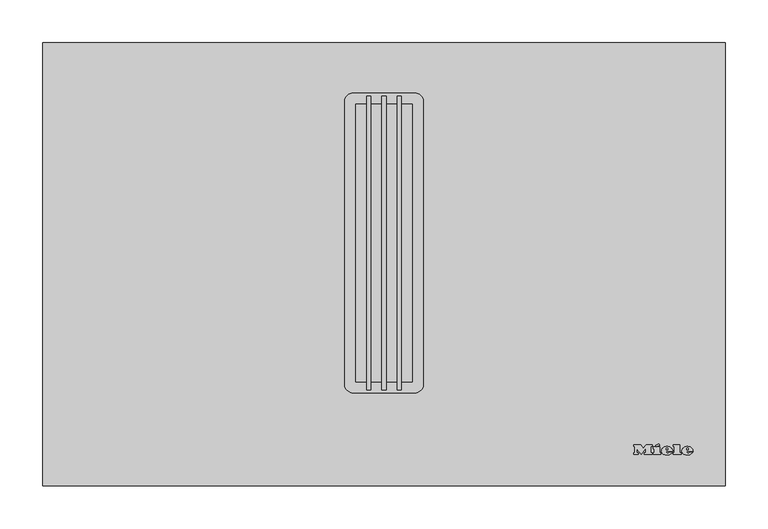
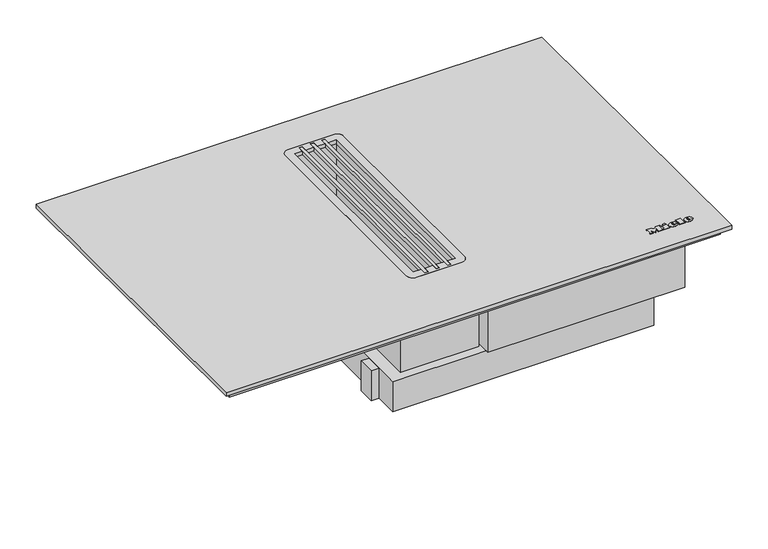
"""IFC4 building model written with IfcOpenShell, lengths in millimetres: proxy geometry, 11390370_D_KMDA7634FL : 26763472_D_11390370_KMDA7634FL."""

from ifc_helpers import new_model, si_unit, point, frame, frame_2d, origin, origin_with_axes, place, context, project, spatial, polyline, circle_curve, ellipse_curve, trimmed, segment, composite_curve, outline, extrude, faceted_brep, source, transform, mapped, element, save
from ifc_brep_helpers import plane_surface, cylinder_surface, revolved_surface, extruded_surface, advanced_brep


def specialty_equipment_c7db01c0(model_context):
    return source(origin(), model_context, "Body", "SolidModel", [
        extrude(outline(polyline([(343.0, 159.0), (343.0, 132.0), (331.0, 132.0), (331.0, 159.0), (343.0, 159.0)])), frame((0.0, 0.0, -194.0), z_axis=(0.0, 0.0, 1.0), x_axis=(1.0, 0.0, 0.0)), (0.0, 0.0, 1.0), 50.0),
        extrude(outline(polyline([(343.0, 299.0), (343.0, 272.0), (331.0, 272.0), (331.0, 299.0), (343.0, 299.0)])), frame((0.0, 0.0, -194.0), z_axis=(0.0, 0.0, 1.0), x_axis=(1.0, 0.0, 0.0)), (0.0, 0.0, 1.0), 50.0),
        extrude(outline(polyline([(-94.0, 132.0), (-94.0, 159.0), (-82.0, 159.0), (-82.0, 132.0), (-94.0, 132.0)])), frame((0.0, 0.0, -194.0), z_axis=(0.0, 0.0, 1.0), x_axis=(1.0, 0.0, 0.0)), (0.0, 0.0, 1.0), 50.0),
        extrude(outline(polyline([(-94.0, 412.0), (-94.0, 439.0), (-82.0, 439.0), (-82.0, 412.0), (-94.0, 412.0)])), frame((0.0, 0.0, -194.0), z_axis=(0.0, 0.0, 1.0), x_axis=(1.0, 0.0, 0.0)), (0.0, 0.0, 1.0), 50.0),
        extrude(outline(composite_curve([segment(trimmed(circle_curve(frame_2d((196.0, 245.0)), 51.0), [point((247.0, 245.0))], [point((145.0, 245.0))], False, "CARTESIAN"), True, "CONTINUOUS"), segment(trimmed(circle_curve(frame_2d((196.0, 245.0)), 51.0), [point((145.0, 245.0))], [point((247.0, 245.0))], False, "CARTESIAN"), True, "CONTINUOUS")], self_intersect=False)), frame((0.0, 0.0, -59.0), z_axis=(0.0, 0.0, 1.0), x_axis=(1.0, 0.0, 0.0)), (0.0, 0.0, 1.0), 13.0),
        extrude(outline(composite_curve([segment(trimmed(circle_curve(frame_2d((-70.0, 342.0)), 20.0), [point((-70.0, 362.0))], [point((-50.0, 342.0))], False, "CARTESIAN"), True, "CONTINUOUS"), segment(polyline([(-50.0, 342.0), (-50.0, 159.0)]), True, "CONTINUOUS"), segment(trimmed(circle_curve(frame_2d((-70.0, 159.0)), 20.0), [point((-50.0, 159.0))], [point((-70.0, 139.0))], False, "CARTESIAN"), True, "CONTINUOUS"), segment(polyline([(-70.0, 139.0), (-126.8, 139.0)]), True, "CONTINUOUS"), segment(trimmed(circle_curve(frame_2d((-126.8, 154.2)), 15.2), [point((-126.8, 139.0))], [point((-142.0, 154.2))], False, "CARTESIAN"), True, "CONTINUOUS"), segment(polyline([(-142.0, 154.2), (-142.0, 346.8)]), True, "CONTINUOUS"), segment(trimmed(circle_curve(frame_2d((-126.8, 346.8)), 15.2), [point((-142.0, 346.8))], [point((-126.8, 362.0))], False, "CARTESIAN"), True, "CONTINUOUS"), segment(polyline([(-126.8, 362.0), (-70.0, 362.0)]), True, "CONTINUOUS")], self_intersect=False)), frame((0.0, 372.0, 0.0), z_axis=(0.0, 1.0, 0.0), x_axis=(0.0, 0.0, 1.0)), (0.0, 0.0, 1.0), 40.0),
        extrude(outline(composite_curve([segment(trimmed(circle_curve(frame_2d((-36.0, 451.0)), 10.0), [point((-46.0, 451.0))], [point((-36.0, 461.0))], False, "CARTESIAN"), True, "CONTINUOUS"), segment(polyline([(-36.0, 461.0), (36.0, 461.0)]), True, "CONTINUOUS"), segment(trimmed(circle_curve(frame_2d((36.0, 451.0)), 10.0), [point((36.0, 461.0))], [point((46.0, 451.0))], False, "CARTESIAN"), True, "CONTINUOUS"), segment(polyline([(46.0, 451.0), (46.0, 119.0)]), True, "CONTINUOUS"), segment(trimmed(circle_curve(frame_2d((36.0, 119.0)), 10.0), [point((46.0, 119.0))], [point((36.0, 109.0))], False, "CARTESIAN"), True, "CONTINUOUS"), segment(polyline([(36.0, 109.0), (-36.0, 109.0)]), True, "CONTINUOUS"), segment(trimmed(circle_curve(frame_2d((-36.0, 119.0)), 10.0), [point((-36.0, 109.0))], [point((-46.0, 119.0))], False, "CARTESIAN"), True, "CONTINUOUS"), segment(polyline([(-46.0, 119.0), (-46.0, 451.0)]), True, "CONTINUOUS")], self_intersect=False), holes=[polyline([(-33.0, 448.0), (-33.0, 122.0), (-20.5, 122.0), (-20.5, 112.5), (-15.5, 112.5), (-15.5, 122.0), (-2.5, 122.0), (-2.5, 112.5), (2.5, 112.5), (2.5, 122.0), (15.4810503, 122.0), (15.4810503, 112.5), (20.4810503, 112.5), (20.4810503, 122.0), (33.0, 122.0), (33.0, 448.0), (20.4810503, 448.0), (20.4810503, 457.5), (15.4810503, 457.5), (15.4810503, 448.0), (2.5, 448.0), (2.5, 457.5), (-2.5, 457.5), (-2.5, 448.0), (-15.5, 448.0), (-15.5, 457.5), (-20.5, 457.5), (-20.5, 448.0), (-33.0, 448.0)])]), origin_with_axes(), (0.0, 0.0, 1.0), 6.0),
        extrude(outline(polyline([(2.5, 457.5), (2.5, 112.5), (-2.5, 112.5), (-2.5, 457.5), (2.5, 457.5)])), origin_with_axes(), (0.0, 0.0, 1.0), 6.0),
        extrude(outline(polyline([(-15.5, 457.5), (-15.5, 112.5), (-20.5, 112.5), (-20.5, 457.5), (-15.5, 457.5)])), origin_with_axes(), (0.0, 0.0, 1.0), 6.0),
        extrude(outline(polyline([(20.4810503, 457.5), (20.4810503, 112.5), (15.4810503, 112.5), (15.4810503, 457.5), (20.4810503, 457.5)])), origin_with_axes(), (0.0, 0.0, 1.0), 6.0),
        extrude(outline(composite_curve([segment(trimmed(circle_curve(frame_2d((-34.0, 449.5)), 8.0), [point((-42.0, 449.5))], [point((-34.0, 457.5))], False, "CARTESIAN"), True, "CONTINUOUS"), segment(polyline([(-34.0, 457.5), (34.0, 457.5)]), True, "CONTINUOUS"), segment(trimmed(circle_curve(frame_2d((34.0, 449.5)), 8.0), [point((34.0, 457.5))], [point((42.0, 449.5))], False, "CARTESIAN"), True, "CONTINUOUS"), segment(polyline([(42.0, 449.5), (42.0, 120.5)]), True, "CONTINUOUS"), segment(trimmed(circle_curve(frame_2d((34.0, 120.5)), 8.0), [point((42.0, 120.5))], [point((34.0, 112.5))], False, "CARTESIAN"), True, "CONTINUOUS"), segment(polyline([(34.0, 112.5), (-34.0, 112.5)]), True, "CONTINUOUS"), segment(trimmed(circle_curve(frame_2d((-34.0, 120.5)), 8.0), [point((-34.0, 112.5))], [point((-42.0, 120.5))], False, "CARTESIAN"), True, "CONTINUOUS"), segment(polyline([(-42.0, 120.5), (-42.0, 449.5)]), True, "CONTINUOUS")], self_intersect=False), holes=[polyline([(-34.0, 449.5), (-34.0, 120.5), (34.0, 120.5), (34.0, 449.5), (-34.0, 449.5)])]), frame((0.0, 0.0, -144.0), z_axis=(0.0, 0.0, 1.0), x_axis=(1.0, 0.0, 0.0)), (0.0, 0.0, 1.0), 144.0),
        extrude(outline(polyline([(-82.0, 94.0), (-82.0, 477.0), (62.0, 477.0), (331.0, 337.0), (331.0, 94.0), (-82.0, 94.0)])), frame((0.0, 0.0, -194.0), z_axis=(0.0, 0.0, 1.0), x_axis=(1.0, 0.0, 0.0)), (0.0, 0.0, 1.0), 50.0),
        extrude(outline(polyline([(378.0, 372.0), (378.0, 90.0), (66.0, 90.0), (66.0, 372.0), (378.0, 372.0)])), frame((0.0, 0.0, -144.0), z_axis=(0.0, 0.0, 1.0), x_axis=(1.0, 0.0, 0.0)), (0.0, 0.0, 1.0), 85.0),
        faceted_brep([(-62.0, 462.0, -47.0), (-62.0, 462.0, -141.0), (128.0, 462.0, -141.0), (128.0, 462.0, -47.0), (128.0, 498.0, -47.0), (128.0, 498.0, -141.0), (-62.0, 498.0, -141.0), (-62.0, 498.0, -47.0), (-151.0, 498.0, -47.0), (-151.0, 498.0, -12.0), (151.0, 498.0, -12.0), (151.0, 498.0, -47.0), (128.0, 471.0, -47.0), (-62.0, 471.0, -47.0), (-151.0, 471.0, -12.0), (-151.0, 471.0, -47.0), (151.0, 471.0, -47.0), (151.0, 471.0, -12.0)], [[[0, 1, 2, 3]], [[4, 5, 6, 7, 8, 9, 10, 11]], [[0, 3, 12, 13]], [[3, 2, 5, 4, 12]], [[2, 1, 6, 5]], [[1, 0, 13, 7, 6]], [[14, 15, 13, 12, 16, 17]], [[14, 17, 10, 9]], [[17, 16, 11, 10]], [[11, 16, 12, 4]], [[15, 8, 7, 13]], [[15, 14, 9, 8]]]),
        extrude(outline(polyline([(388.5, 508.5), (388.5, 11.5), (-388.5, 11.5), (-388.5, 508.5), (388.5, 508.5)]), holes=[composite_curve([segment(polyline([(36.0, 461.0), (-36.0, 461.0)]), True, "CONTINUOUS"), segment(trimmed(circle_curve(frame_2d((-36.0, 451.0)), 10.0), [point((-36.0, 461.0))], [point((-46.0, 451.0))], True, "CARTESIAN"), True, "CONTINUOUS"), segment(polyline([(-46.0, 451.0), (-46.0, 119.0)]), True, "CONTINUOUS"), segment(trimmed(circle_curve(frame_2d((-36.0, 119.0)), 10.0), [point((-46.0, 119.0))], [point((-36.0, 109.0))], True, "CARTESIAN"), True, "CONTINUOUS"), segment(polyline([(-36.0, 109.0), (36.0, 109.0)]), True, "CONTINUOUS"), segment(trimmed(circle_curve(frame_2d((36.0, 119.0)), 10.0), [point((36.0, 109.0))], [point((46.0, 119.0))], True, "CARTESIAN"), True, "CONTINUOUS"), segment(polyline([(46.0, 119.0), (46.0, 451.0)]), True, "CONTINUOUS"), segment(trimmed(circle_curve(frame_2d((36.0, 451.0)), 10.0), [point((46.0, 451.0))], [point((36.0, 461.0))], True, "CARTESIAN"), True, "CONTINUOUS")], self_intersect=False)]), frame((0.0, 0.0, -12.0), z_axis=(0.0, 0.0, 1.0), x_axis=(1.0, 0.0, 0.0)), (0.0, 0.0, 1.0), 12.0),
        extrude(outline(polyline([(62.0, 462.0), (62.0, 108.0), (-62.0, 108.0), (-62.0, 462.0), (62.0, 462.0)]), holes=[polyline([(-61.0, 461.0), (-61.0, 109.0), (61.0, 109.0), (61.0, 461.0), (-61.0, 461.0)])]), frame((0.0, 0.0, -144.0), z_axis=(0.0, 0.0, 1.0), x_axis=(1.0, 0.0, 0.0)), (0.0, 0.0, 1.0), 132.0),
        extrude(outline(polyline([(-115.0, 470.0), (-115.0, 442.0), (-75.0, 442.0), (-75.0, 192.0), (-115.0, 192.0), (-115.0, 99.0), (-343.0, 99.0), (-343.0, 470.0), (-115.0, 470.0)])), frame((0.0, 0.0, -44.5), z_axis=(0.0, 0.0, 1.0), x_axis=(1.0, 0.0, 0.0)), (0.0, 0.0, 1.0), 32.5),
        extrude(outline(polyline([(343.0, 470.0), (343.0, 99.0), (115.0, 99.0), (115.0, 470.0), (343.0, 470.0)])), frame((0.0, 0.0, -44.5), z_axis=(0.0, 0.0, 1.0), x_axis=(1.0, 0.0, 0.0)), (0.0, 0.0, 1.0), 32.5),
        extrude(outline(polyline([(-25.4965602, 509.4131275), (-25.4965602, 510.6693704), (-18.2793315, 510.6693704), (-18.2793315, 500.6193878), (-25.4965602, 500.6193878), (-25.4965602, 501.8890292), (-19.5330305, 501.8890292), (-19.5330305, 505.1776048), (-25.1827338, 505.1776048), (-25.1827338, 506.4350695), (-19.5330305, 506.4350695), (-19.5330305, 509.4131275), (-25.4965602, 509.4131275)])), frame((0.0, 0.0, -132.0), z_axis=(0.0, 0.0, 1.0), x_axis=(1.0, 0.0, 0.0)), (0.0, 0.0, 1.0), 1.0),
        extrude(outline(polyline([(-27.5290529, 510.6701533), (-27.5290529, 500.627745), (-33.8100829, 500.627745), (-33.8100829, 501.8855606), (-28.8100829, 501.8855606), (-28.8100829, 510.6701533), (-27.5290529, 510.6701533)])), frame((0.0, 0.0, -132.0), z_axis=(0.0, 0.0, 1.0), x_axis=(1.0, 0.0, 0.0)), (0.0, 0.0, 1.0), 1.0),
        extrude(outline(composite_curve([segment(trimmed(circle_curve(frame_2d((-24.5, 505.5)), 7.5), [point((-24.5, 513.0))], [point((-24.5, 498.0))], False, "CARTESIAN"), True, "CONTINUOUS"), segment(trimmed(circle_curve(frame_2d((-24.5, 505.5)), 7.5), [point((-24.5, 498.0))], [point((-24.5, 513.0))], False, "CARTESIAN"), True, "CONTINUOUS")], self_intersect=False)), frame((0.0, 0.0, -131.0), z_axis=(0.0, 0.0, 1.0), x_axis=(1.0, 0.0, 0.0)), (0.0, 0.0, 1.0), 30.0),
        extrude(outline(polyline([(-52.0, 501.0), (3.0, 501.0), (3.0, 498.0), (-52.0, 498.0), (-52.0, 501.0)])), frame((0.0, 0.0, -101.0), z_axis=(0.0, 0.0, 1.0), x_axis=(1.0, 0.0, 0.0)), (0.0, 0.0, 1.0), 64.0),
        extrude(outline(polyline([(400.0, 520.0), (400.0, 0.0), (-400.0, 0.0), (-400.0, 520.0), (400.0, 520.0)]), holes=[composite_curve([segment(polyline([(36.0, 461.0), (-36.0, 461.0)]), True, "CONTINUOUS"), segment(trimmed(circle_curve(frame_2d((-36.0, 451.0)), 10.0), [point((-36.0, 461.0))], [point((-46.0, 451.0))], True, "CARTESIAN"), True, "CONTINUOUS"), segment(polyline([(-46.0, 451.0), (-46.0, 119.0)]), True, "CONTINUOUS"), segment(trimmed(circle_curve(frame_2d((-36.0, 119.0)), 10.0), [point((-46.0, 119.0))], [point((-36.0, 109.0))], True, "CARTESIAN"), True, "CONTINUOUS"), segment(polyline([(-36.0, 109.0), (36.0, 109.0)]), True, "CONTINUOUS"), segment(trimmed(circle_curve(frame_2d((36.0, 119.0)), 10.0), [point((36.0, 109.0))], [point((46.0, 119.0))], True, "CARTESIAN"), True, "CONTINUOUS"), segment(polyline([(46.0, 119.0), (46.0, 451.0)]), True, "CONTINUOUS"), segment(trimmed(circle_curve(frame_2d((36.0, 451.0)), 10.0), [point((46.0, 451.0))], [point((36.0, 461.0))], True, "CARTESIAN"), True, "CONTINUOUS")], self_intersect=False)]), origin_with_axes(), (0.0, 0.0, 1.0), 6.0),
        advanced_brep(
        [(354.5276771, 39.7018, 7.0), (354.5276771, 40.8532, 7.0), (362.1542771, 40.8532, 7.0), (348.8846771, 40.8532, 7.0), (352.0196771, 37.0, 7.0), (361.9604771, 39.7018, 7.0), (358.5176771, 39.7018, 7.0), (355.8044771, 38.425, 7.0), (354.5276771, 42.3124, 7.0), (354.5276771, 43.555, 7.0), (356.4770771, 43.555, 7.0), (356.4770771, 42.3124, 7.0), (354.5276771, 39.7018, 6.0), (355.8044771, 38.425, 6.0), (358.5176771, 39.7018, 6.0), (361.9604771, 39.7018, 6.0), (352.0196771, 37.0, 6.0), (348.8846771, 40.8532, 6.0), (362.1542771, 40.8532, 6.0), (354.5276771, 40.8532, 6.0), (354.5276771, 42.3124, 6.0), (356.4770771, 42.3124, 6.0), (356.4770771, 43.555, 6.0), (354.5276771, 43.555, 6.0)],
        [
            (0, 1),
            (1, 2),
            (2, 3, ellipse_curve(frame((355.5194771, 40.8532, 7.0), z_axis=(0.0, 0.0, 1.0), x_axis=(-1.0, 0.0, 0.0)), 6.6348, 5.4834)),
            (3, 4, circle_curve(frame((353.2965393, 41.2408, 7.0), z_axis=(0.0, 0.0, 1.0), x_axis=(0.0, -1.0, 0.0)), 4.4288556)),
            (4, 5, circle_curve(frame((355.3866579, 44.2504, 7.0), z_axis=(0.0, 0.0, 1.0), x_axis=(0.0, -1.0, 0.0)), 7.9940516)),
            (5, 6),
            (6, 7, circle_curve(frame((356.3617359, 40.762, 7.0), z_axis=(0.0, 0.0, -1.0), x_axis=(0.0, -1.0, 0.0)), 2.4025208)),
            (7, 0, circle_curve(frame((355.8044771, 39.7018, 7.0), z_axis=(0.0, 0.0, -1.0), x_axis=(0.0, -1.0, 0.0)), 1.2768)),
            (8, 9),
            (9, 10, circle_curve(frame((355.5023771, 43.555, 7.0), z_axis=(0.0, 0.0, -1.0), x_axis=(0.0, -1.0, 0.0)), 0.9747)),
            (10, 11),
            (11, 8),
            (12, 13, circle_curve(frame((355.8044771, 39.7018, 6.0), z_axis=(0.0, 0.0, 1.0), x_axis=(0.0, -1.0, 0.0)), 1.2768)),
            (13, 14, circle_curve(frame((356.3617359, 40.762, 6.0), z_axis=(0.0, 0.0, 1.0), x_axis=(0.0, -1.0, 0.0)), 2.4025208)),
            (14, 15),
            (15, 16, circle_curve(frame((355.3866579, 44.2504, 6.0), z_axis=(0.0, 0.0, -1.0), x_axis=(0.0, -1.0, 0.0)), 7.9940516)),
            (16, 17, circle_curve(frame((353.2965393, 41.2408, 6.0), z_axis=(0.0, 0.0, -1.0), x_axis=(0.0, -1.0, 0.0)), 4.4288556)),
            (17, 18, ellipse_curve(frame((355.5194771, 40.8532, 6.0), z_axis=(0.0, 0.0, -1.0), x_axis=(-1.0, 0.0, 0.0)), 6.6348, 5.4834)),
            (18, 19),
            (19, 12),
            (20, 21),
            (21, 22),
            (22, 23, circle_curve(frame((355.5023771, 43.555, 6.0), z_axis=(0.0, 0.0, 1.0), x_axis=(0.0, -1.0, 0.0)), 0.9747)),
            (23, 20),
            (0, 12),
            (19, 1),
            (18, 2),
            (5, 15),
            (14, 6),
            (17, 3),
            (13, 7),
            (16, 4),
            (8, 20),
            (23, 9),
            (22, 10),
            (21, 11),
        ],
        [
            plane_surface(frame((354.5276771, 40.8532, 7.0), z_axis=(0.0, 0.0, 1.0), x_axis=(0.0, 1.0, 0.0))),
            plane_surface(frame((354.5276771, 40.8532, 6.0), z_axis=(0.0, 0.0, -1.0), x_axis=(0.0, -1.0, 0.0))),
            plane_surface(frame((354.5276771, 39.7018, 7.0), z_axis=(1.0, 0.0, 0.0), x_axis=(0.0, 0.0, -1.0))),
            plane_surface(frame((354.5276771, 40.8532, 7.0), z_axis=(0.0, -1.0, 0.0), x_axis=(0.0, 0.0, -1.0))),
            plane_surface(frame((361.9604771, 39.7018, 7.0), z_axis=(0.0, 1.0, 0.0), x_axis=(0.0, 0.0, -1.0))),
            extruded_surface(trimmed(ellipse_curve(frame((355.5194771, 40.8532, 5.0), z_axis=(0.0, 0.0, 1.0), x_axis=(-1.0, 0.0, 0.0)), 6.6348, 5.4834), [point((362.1542771, 40.8532, 5.0))], [point((348.8846771, 40.8532, 5.0))], True, "CARTESIAN"), (0.0, 0.0, 1.0), 1.0),
            revolved_surface(polyline([(356.3617359, 38.3594792, 6.0), (356.3617359, 38.3594792, 7.0)]), (356.3617359, 40.762, 6.0), (0.0, 0.0, -1.0)),
            revolved_surface(polyline([(355.8044771, 38.425, 6.0), (355.8044771, 38.425, 7.0)]), (355.8044771, 39.7018, 6.0), (0.0, 0.0, -1.0)),
            cylinder_surface(frame((353.2965393, 41.2408, 6.0), z_axis=(0.0, 0.0, 1.0), x_axis=(0.0, -1.0, 0.0)), 4.4288556),
            cylinder_surface(frame((355.3866579, 44.2504, 6.0), z_axis=(0.0, 0.0, 1.0), x_axis=(0.0, -1.0, 0.0)), 7.9940516),
            plane_surface(frame((354.5276771, 42.3124, 7.0), z_axis=(1.0, 0.0, 0.0), x_axis=(0.0, 0.0, -1.0))),
            revolved_surface(polyline([(355.5023771, 42.5803, 6.0), (355.5023771, 42.5803, 7.0)]), (355.5023771, 43.555, 6.0), (0.0, 0.0, -1.0)),
            plane_surface(frame((356.4770771, 43.555, 7.0), z_axis=(-1.0, 0.0, 0.0), x_axis=(0.0, 0.0, -1.0))),
            plane_surface(frame((356.4770771, 42.3124, 7.0), z_axis=(0.0, 1.0, 0.0), x_axis=(0.0, 0.0, -1.0))),
        ],
        [
            (0, [[1, 2, 3, 4, 5, 6, 7, 8], [9, 10, 11, 12]]),
            (1, [[13, 14, 15, 16, 17, 18, 19, 20], [21, 22, 23, 24]]),
            (2, [[-1, 25, -20, 26]]),
            (3, [[-2, -26, -19, 27]]),
            (4, [[-6, 28, -15, 29]]),
            (5, [[-3, -27, -18, 30]]),
            (6, [[-7, -29, -14, 31]]),
            (7, [[-8, -31, -13, -25]]),
            (8, [[-4, -30, -17, 32]]),
            (9, [[-5, -32, -16, -28]]),
            (10, [[-9, 33, -24, 34]]),
            (11, [[-10, -34, -23, 35]]),
            (12, [[-11, -35, -22, 36]]),
            (13, [[-12, -36, -21, -33]]),
        ],
    ),
        advanced_brep(
        [(330.7358771, 39.7018, 7.0), (330.7358771, 40.8532, 7.0), (338.3624771, 40.8532, 7.0), (325.0928771, 40.8532, 7.0), (328.2278771, 37.0, 7.0), (338.1686771, 39.7018, 7.0), (334.7258771, 39.7018, 7.0), (332.0126771, 38.425, 7.0), (330.7358771, 42.3124, 7.0), (330.7358771, 43.555, 7.0), (332.6852771, 43.555, 7.0), (332.6852771, 42.3124, 7.0), (330.7358771, 39.7018, 6.0), (332.0126771, 38.425, 6.0), (334.7258771, 39.7018, 6.0), (338.1686771, 39.7018, 6.0), (328.2278771, 37.0, 6.0), (325.0928771, 40.8532, 6.0), (338.3624771, 40.8532, 6.0), (330.7358771, 40.8532, 6.0), (330.7358771, 42.3124, 6.0), (332.6852771, 42.3124, 6.0), (332.6852771, 43.555, 6.0), (330.7358771, 43.555, 6.0)],
        [
            (0, 1),
            (1, 2),
            (2, 3, ellipse_curve(frame((331.7276771, 40.8532, 7.0), z_axis=(0.0, 0.0, 1.0), x_axis=(-1.0, 0.0, 0.0)), 6.6348, 5.4834)),
            (3, 4, circle_curve(frame((329.5047393, 41.2408, 7.0), z_axis=(0.0, 0.0, 1.0), x_axis=(0.0, -1.0, 0.0)), 4.4288556)),
            (4, 5, circle_curve(frame((331.5948579, 44.2504, 7.0), z_axis=(0.0, 0.0, 1.0), x_axis=(0.0, -1.0, 0.0)), 7.9940516)),
            (5, 6),
            (6, 7, circle_curve(frame((332.5699359, 40.762, 7.0), z_axis=(0.0, 0.0, -1.0), x_axis=(0.0, -1.0, 0.0)), 2.4025208)),
            (7, 0, circle_curve(frame((332.0126771, 39.7018, 7.0), z_axis=(0.0, 0.0, -1.0), x_axis=(0.0, -1.0, 0.0)), 1.2768)),
            (8, 9),
            (9, 10, circle_curve(frame((331.7105771, 43.555, 7.0), z_axis=(0.0, 0.0, -1.0), x_axis=(0.0, -1.0, 0.0)), 0.9747)),
            (10, 11),
            (11, 8),
            (12, 13, circle_curve(frame((332.0126771, 39.7018, 6.0), z_axis=(0.0, 0.0, 1.0), x_axis=(0.0, -1.0, 0.0)), 1.2768)),
            (13, 14, circle_curve(frame((332.5699359, 40.762, 6.0), z_axis=(0.0, 0.0, 1.0), x_axis=(0.0, -1.0, 0.0)), 2.4025208)),
            (14, 15),
            (15, 16, circle_curve(frame((331.5948579, 44.2504, 6.0), z_axis=(0.0, 0.0, -1.0), x_axis=(0.0, -1.0, 0.0)), 7.9940516)),
            (16, 17, circle_curve(frame((329.5047393, 41.2408, 6.0), z_axis=(0.0, 0.0, -1.0), x_axis=(0.0, -1.0, 0.0)), 4.4288556)),
            (17, 18, ellipse_curve(frame((331.7276771, 40.8532, 6.0), z_axis=(0.0, 0.0, -1.0), x_axis=(-1.0, 0.0, 0.0)), 6.6348, 5.4834)),
            (18, 19),
            (19, 12),
            (20, 21),
            (21, 22),
            (22, 23, circle_curve(frame((331.7105771, 43.555, 6.0), z_axis=(0.0, 0.0, 1.0), x_axis=(0.0, -1.0, 0.0)), 0.9747)),
            (23, 20),
            (0, 12),
            (19, 1),
            (18, 2),
            (5, 15),
            (14, 6),
            (17, 3),
            (13, 7),
            (16, 4),
            (8, 20),
            (23, 9),
            (22, 10),
            (21, 11),
        ],
        [
            plane_surface(frame((330.7358771, 40.8532, 7.0), z_axis=(0.0, 0.0, 1.0), x_axis=(0.0, 1.0, 0.0))),
            plane_surface(frame((330.7358771, 40.8532, 6.0), z_axis=(0.0, 0.0, -1.0), x_axis=(0.0, -1.0, 0.0))),
            plane_surface(frame((330.7358771, 39.7018, 7.0), z_axis=(1.0, 0.0, 0.0), x_axis=(0.0, 0.0, -1.0))),
            plane_surface(frame((330.7358771, 40.8532, 7.0), z_axis=(0.0, -1.0, 0.0), x_axis=(0.0, 0.0, -1.0))),
            plane_surface(frame((338.1686771, 39.7018, 7.0), z_axis=(0.0, 1.0, 0.0), x_axis=(0.0, 0.0, -1.0))),
            extruded_surface(trimmed(ellipse_curve(frame((331.7276771, 40.8532, 5.0), z_axis=(0.0, 0.0, 1.0), x_axis=(-1.0, 0.0, 0.0)), 6.6348, 5.4834), [point((338.3624771, 40.8532, 5.0))], [point((325.0928771, 40.8532, 5.0))], True, "CARTESIAN"), (0.0, 0.0, 1.0), 1.0),
            revolved_surface(polyline([(332.5699359, 38.3594792, 6.0), (332.5699359, 38.3594792, 7.0)]), (332.5699359, 40.762, 6.0), (0.0, 0.0, -1.0)),
            revolved_surface(polyline([(332.0126771, 38.425, 6.0), (332.0126771, 38.425, 7.0)]), (332.0126771, 39.7018, 6.0), (0.0, 0.0, -1.0)),
            cylinder_surface(frame((329.5047393, 41.2408, 6.0), z_axis=(0.0, 0.0, 1.0), x_axis=(0.0, -1.0, 0.0)), 4.4288556),
            cylinder_surface(frame((331.5948579, 44.2504, 6.0), z_axis=(0.0, 0.0, 1.0), x_axis=(0.0, -1.0, 0.0)), 7.9940516),
            plane_surface(frame((330.7358771, 42.3124, 7.0), z_axis=(1.0, 0.0, 0.0), x_axis=(0.0, 0.0, -1.0))),
            revolved_surface(polyline([(331.7105771, 42.5803, 6.0), (331.7105771, 42.5803, 7.0)]), (331.7105771, 43.555, 6.0), (0.0, 0.0, -1.0)),
            plane_surface(frame((332.6852771, 43.555, 7.0), z_axis=(-1.0, 0.0, 0.0), x_axis=(0.0, 0.0, -1.0))),
            plane_surface(frame((332.6852771, 42.3124, 7.0), z_axis=(0.0, 1.0, 0.0), x_axis=(0.0, 0.0, -1.0))),
        ],
        [
            (0, [[1, 2, 3, 4, 5, 6, 7, 8], [9, 10, 11, 12]]),
            (1, [[13, 14, 15, 16, 17, 18, 19, 20], [21, 22, 23, 24]]),
            (2, [[-1, 25, -20, 26]]),
            (3, [[-2, -26, -19, 27]]),
            (4, [[-6, 28, -15, 29]]),
            (5, [[-3, -27, -18, 30]]),
            (6, [[-7, -29, -14, 31]]),
            (7, [[-8, -31, -13, -25]]),
            (8, [[-4, -30, -17, 32]]),
            (9, [[-5, -32, -16, -28]]),
            (10, [[-9, 33, -24, 34]]),
            (11, [[-10, -34, -23, 35]]),
            (12, [[-11, -35, -22, 36]]),
            (13, [[-12, -36, -21, -33]]),
        ],
    ),
        extrude(outline(polyline([(318.2756771, 47.7274), (322.1516771, 49.5286), (323.0066771, 47.6818), (319.1420771, 45.8806), (318.2756771, 47.7274)])), frame((0.0, 0.0, 6.0), z_axis=(0.0, 0.0, 1.0), x_axis=(1.0, 0.0, 0.0)), (0.0, 0.0, 1.0), 1.0),
        extrude(outline(polyline([(315.4598771, 45.6298), (323.1320771, 45.6298), (323.1320771, 38.9152), (324.4544771, 38.9152), (324.4544771, 37.0), (315.4598771, 37.0), (315.4598771, 38.9152), (316.8164771, 38.9152), (316.8164771, 43.5892), (315.4598771, 43.5892), (315.4598771, 45.6298)])), frame((0.0, 0.0, 6.0), z_axis=(0.0, 0.0, 1.0), x_axis=(1.0, 0.0, 0.0)), (0.0, 0.0, 1.0), 1.0),
        extrude(outline(polyline([(339.0008771, 46.5418), (339.0008771, 48.4), (346.8440771, 48.4), (346.8440771, 38.9152), (348.2462771, 38.9152), (348.2462771, 37.0), (339.0008771, 37.0), (339.0008771, 38.9152), (340.3688771, 38.9152), (340.3688771, 46.5418), (339.0008771, 46.5418)])), frame((0.0, 0.0, 6.0), z_axis=(0.0, 0.0, 1.0), x_axis=(1.0, 0.0, 0.0)), (0.0, 0.0, 1.0), 1.0),
        extrude(outline(polyline([(292.7396771, 46.5418), (292.7396771, 48.4), (300.6854771, 48.4), (304.0256771, 44.125), (307.3544771, 48.4), (314.2970771, 48.4), (314.2970771, 46.5418), (312.8492771, 46.5418), (312.8492771, 38.9152), (314.2970771, 38.9152), (314.2970771, 37.0), (305.1998771, 37.0), (305.1998771, 38.9152), (306.6020771, 38.9152), (306.6020771, 43.9402223), (301.4834771, 37.0), (296.3876771, 43.7429247), (296.3876771, 38.9152), (297.7556771, 38.9152), (297.7556771, 37.0), (292.7396771, 37.0), (292.7396771, 38.9152), (294.1190771, 38.9152), (294.1190771, 46.5418), (292.7396771, 46.5418)])), frame((0.0, 0.0, 6.0), z_axis=(0.0, 0.0, 1.0), x_axis=(1.0, 0.0, 0.0)), (0.0, 0.0, 1.0), 1.0),
    ])


if __name__ == "__main__":
    model = new_model("IFC4")
    model_context = context("Model", 3, world=origin())
    ifc_project = project(units=[si_unit("LENGTHUNIT", "METRE", prefix="MILLI")], contexts=[model_context])
    site = spatial("IfcSite", under=ifc_project)
    building = spatial("IfcBuilding", under=site)
    placement = place(None, origin())
    specialty_equipment_shape = specialty_equipment_c7db01c0(model_context)
    element("IfcBuildingElementProxy", 1, Name="11390370_D_KMDA7634FL : 26763472_D_11390370_KMDA7634FL", ObjectType="11390370_D_KMDA7634FL : 26763472_D_11390370_KMDA7634FL", at=placement, inside=building, context=model_context, shape_type="MappedRepresentation", body=[
        mapped(specialty_equipment_shape, transform((0.0, 0.0, 0.0), x_axis=(1.0, 0.0, 0.0), y_axis=(0.0, 1.0, 0.0), z_axis=(0.0, 0.0, 1.0))),
    ])
    save(model, "model.ifc")
